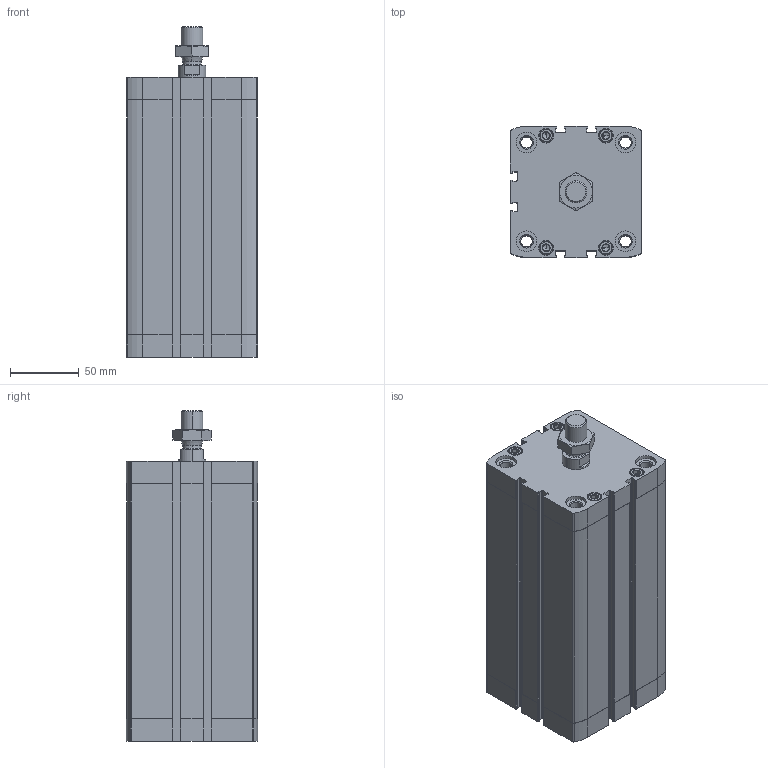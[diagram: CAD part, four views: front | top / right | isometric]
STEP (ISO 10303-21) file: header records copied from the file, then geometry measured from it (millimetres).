
FILE_DESCRIPTION (( 'STEP AP203' ), '1' );
FILE_NAME ('CCN80-150M.STEP', '2017-04-05T20:31:36', ( '' ), ( '' ), 'SwSTEP 2.0', 'SolidWorks 2016', '' );
FILE_SCHEMA (( 'CONFIG_CONTROL_DESIGN' ));
Length unit declared in the file: millimetre
Products named in the file (4): CCN-150---(Z); CCN-150_(KS); _DIN-439-B - M16x1.5(F); CCN80-150M
Assembly tree (3 placements, depth 2):
  CCN80-150M
    CCN-150---(Z)
    CCN-150_(KS)
    _DIN-439-B - M16x1.5(F)
Bounding box: 95.5 x 95.5 x 240.9 mm (x, y, z)
Volume: 1044934.2 mm3; surface area: 216727 mm2
Topology: 3 solids, 3 shells, 507 faces, 1286 edges, 816 vertices
Faces by surface type: plane 235, cylinder 188, cone 80, bspline 4
Entity records: 16182 total; most frequent: CARTESIAN_POINT 3303, DIRECTION 2736, ORIENTED_EDGE 2540, EDGE_CURVE 1270, AXIS2_PLACEMENT_3D 1029, VERTEX_POINT 816, VECTOR 678, LINE 678
